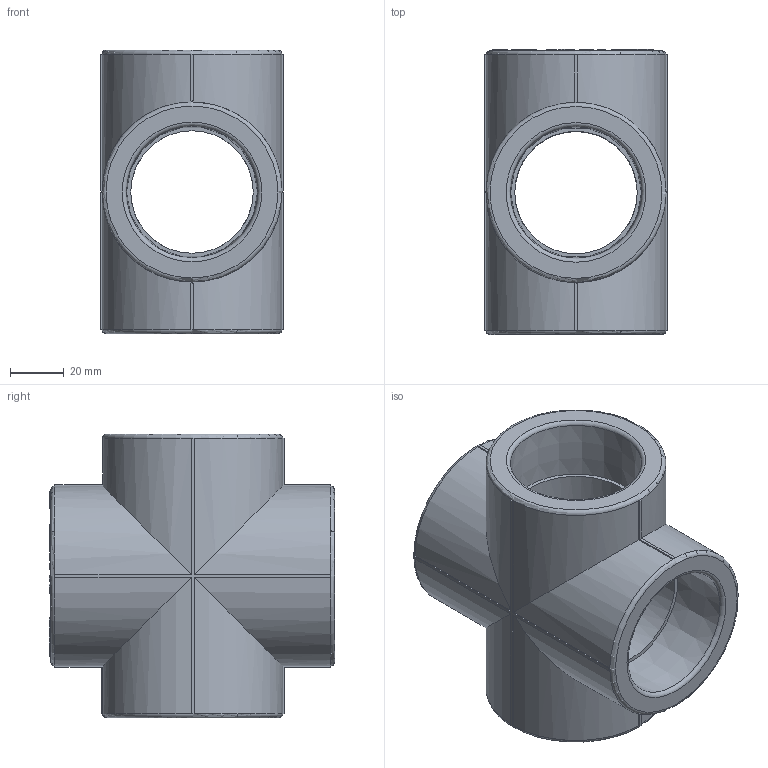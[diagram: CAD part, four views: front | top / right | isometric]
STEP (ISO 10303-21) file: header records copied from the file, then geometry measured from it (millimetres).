
FILE_DESCRIPTION(('STEP AP203'), '1');
FILE_NAME('ÂÐ.752261.008 - VTp.741.0.050', '', ('UNSPECIFIED'), ('UNSPECIFIED'), 'C3D Converter', 'C3D Toolkit', '');
FILE_SCHEMA(('CONFIG_CONTROL_DESIGN'));
Length unit declared in the file: millimetre
Products named in the file (1): ВР.752261.008
Bounding box: 68 x 106.1 x 105.6 mm (x, y, z)
Volume: 239705.7 mm3; surface area: 56649.6 mm2
Topology: 1 solids, 1 shells, 1073 faces, 2994 edges, 1980 vertices
Faces by surface type: extrusion 606, plane 410, cylinder 45, torus 8, cone 4
Full cylindrical faces by diameter (mm): 8 x1, 45.6 x4
Entity records: 39543 total; most frequent: CARTESIAN_POINT 15262, ORIENTED_EDGE 5954, DIRECTION 3058, EDGE_CURVE 2977, VECTOR 2012, VERTEX_POINT 1980, B_SPLINE_CURVE_WITH_KNOTS 1820, LINE 1406
